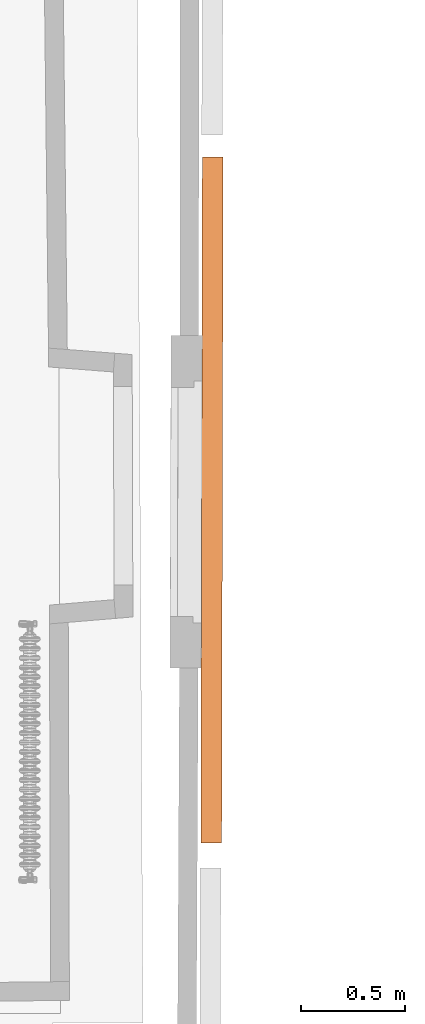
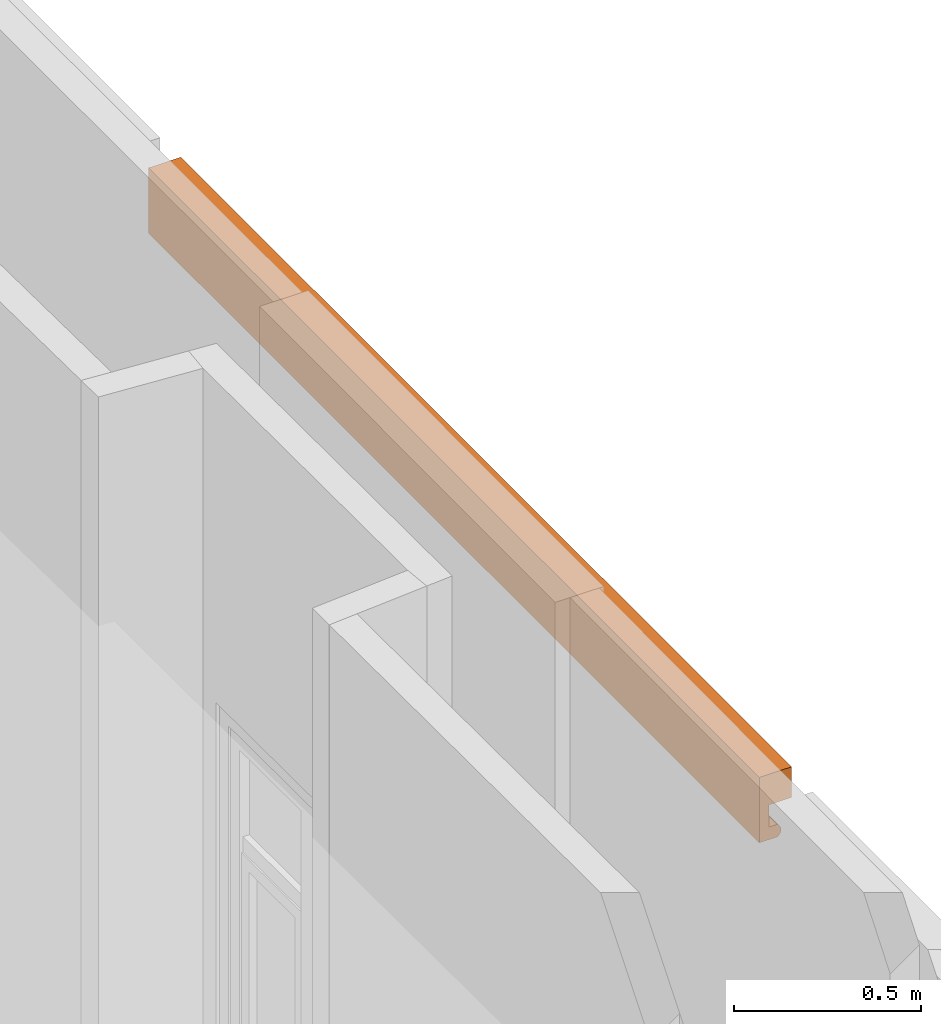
# One storey, part 59 of 66: 1 proxy.
"""IFC2X3 building model written with IfcOpenShell, lengths in centimetres."""

from ifc_helpers import new_model, entity, si_unit, converted_unit, point, direction, frame, frame_2d, origin, origin_with_axes, place, context, subcontext, project, spatial, polyline, circle_curve, trimmed, segment, composite_curve, outline, extrude, source, transform, mapped, material, type_object, element, save


model = new_model("IFC2X3")

# Units and contexts
model_context = context("Model", 3, precision=0.0001, world=origin(), true_north=direction((0.225632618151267, 0.974212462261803, 0.0)))
body_context = subcontext(model_context, "Body", "Model", "MODEL_VIEW")
ifc_project = project(units=[si_unit("LENGTHUNIT", "METRE", prefix="CENTI"), si_unit("AREAUNIT", "SQUARE_METRE", prefix="CENTI"), si_unit("VOLUMEUNIT", "CUBIC_METRE", prefix="CENTI"), converted_unit("PLANEANGLEUNIT", "DEGREE", entity("IfcRatioMeasure", 0.0174532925), si_unit("PLANEANGLEUNIT", "RADIAN"), dimensions=[0, 0, 0, 0, 0, 0, 0])], contexts=[model_context])

# Site, building, storey
site_placement = place(None, origin_with_axes())
site = spatial("IfcSite", under=ifc_project, at=site_placement, Name="Default Site", CompositionType="ELEMENT")
building_placement = place(site_placement, origin_with_axes())
building = spatial("IfcBuilding", under=site, at=building_placement, Name="Default Building", CompositionType="ELEMENT")
storey_placement = place(building_placement, frame((0.0, 0.0, 477.795358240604), z_axis=(0.0, 0.0, 1.0), x_axis=(1.0, 0.0, 0.0)))
storey = spatial("IfcBuildingStorey", under=building, at=storey_placement, Name="Niveau 1", CompositionType="ELEMENT", Elevation=477.795358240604)

# Proxy
ifc_material = material(Name="Aluminium mat")
building_element_proxy_type = type_object("IfcBuildingElementProxyType", Name="Corniche niv1", PredefinedType="NOTDEFINED", material=ifc_material)
shared_shape = source(origin_with_axes(), body_context, "Body", "SweptSolid", [
    extrude(outline(composite_curve([segment(trimmed(circle_curve(frame_2d((0.268889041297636, 10.5360105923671), x_axis=(1.0, 0.0)), 2.2994959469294), [point((1.31060948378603, 8.48601056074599))], [point((1.31060948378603, 12.5860106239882))], True, "CARTESIAN"), True, "CONTINUOUS"), segment(polyline([(1.31060948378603, 12.5860106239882), (-4.15787333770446, 12.5860106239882), (-4.15787333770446, -8.8139892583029), (5.82834186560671, -8.8139892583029), (5.82834186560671, 1.18601056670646), (-1.15787333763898, 1.18601056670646), (-1.15787333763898, 8.48601056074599), (1.31060948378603, 8.48601056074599)]), True, "CONTINUOUS")], self_intersect=False)), origin_with_axes(), (0.0, 0.0, 1.0), 100.0),
])
proxy_placement = place(storey_placement, frame((1151.12329710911, 619.46, 343.0), z_axis=(0.00208558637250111, 0.999997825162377, 4.81482486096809e-35), x_axis=(0.999997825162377, -0.00208558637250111, 1.22464679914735e-16)))
element("IfcBuildingElementProxy", 1, at=proxy_placement, inside=storey, type_object=building_element_proxy_type, material=ifc_material, Name="Extrusion (solide) 449952", context=body_context, shape_type="MappedRepresentation", body=[
    mapped(shared_shape, transform((4.15787333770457, -12.586010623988, 0.0), x_axis=(1.0, 0.0, 1.17929197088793e-50), y_axis=(0.0, 1.0, 4.81482486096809e-35), z_axis=(-2.63985735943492e-19, 8.37158455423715e-36, -1.0), scale=1.0, scale2=1.0, scale3=3.28563865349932, uniform=False)),
])

save(model, "model.ifc")
